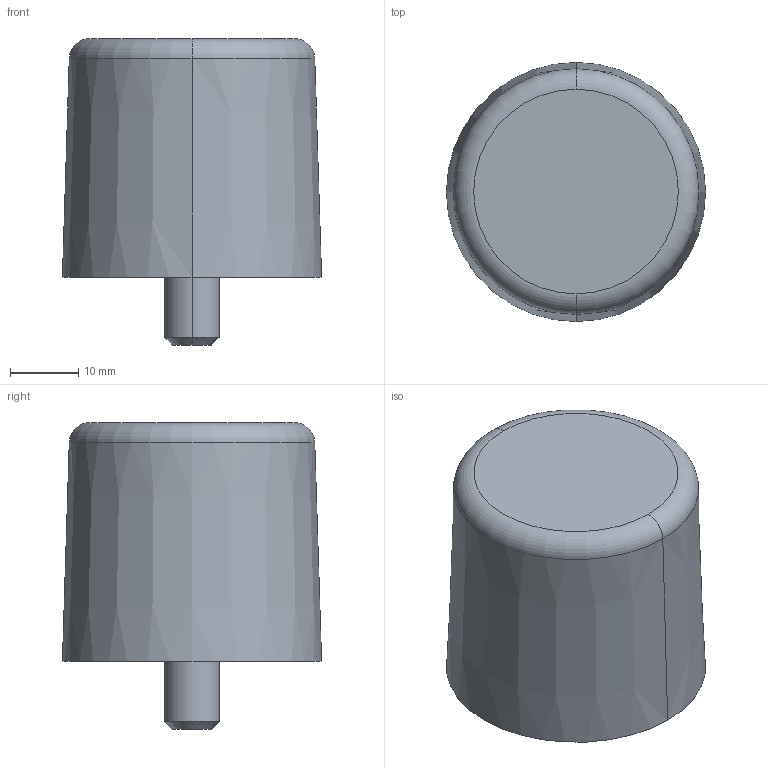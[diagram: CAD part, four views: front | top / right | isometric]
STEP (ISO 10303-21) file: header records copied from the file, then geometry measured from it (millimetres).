
FILE_DESCRIPTION (( 'STEP AP203' ), '1' );
FILE_NAME ('vdb6-3835m8l10m.STEP', '2021-10-21T08:07:19', ( '' ), ( '' ), 'SwSTEP 2.0', 'SolidWorks 2020', '' );
FILE_SCHEMA (( 'CONFIG_CONTROL_DESIGN' ));
Length unit declared in the file: millimetre
Products named in the file (1): vdb6-3835m8l10m
Bounding box: 38 x 38 x 45 mm (x, y, z)
Volume: 37747.4 mm3; surface area: 6302.6 mm2
Topology: 1 solids, 1 shells, 16 faces, 30 edges, 18 vertices
Faces by surface type: cone 6, cylinder 4, plane 4, torus 2
Entity records: 483 total; most frequent: DIRECTION 84, CARTESIAN_POINT 65, ORIENTED_EDGE 60, AXIS2_PLACEMENT_3D 37, EDGE_CURVE 30, CIRCLE 20, EDGE_LOOP 18, VERTEX_POINT 18
